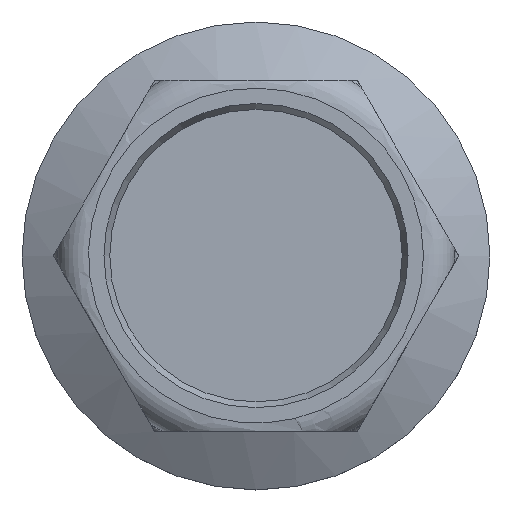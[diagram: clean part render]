
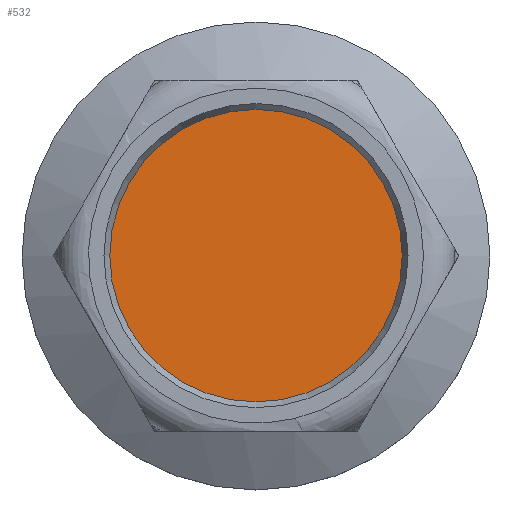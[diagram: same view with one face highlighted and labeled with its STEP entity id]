
A CAD part, top view. The second image highlights one B-rep face of the part: STEP entity #532.
In plain terms, the highlighted planar face has unit normal (0, 0, 1).
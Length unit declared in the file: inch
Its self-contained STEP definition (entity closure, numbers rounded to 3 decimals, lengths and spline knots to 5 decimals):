
#29=PLANE('',#582);
#83=FACE_OUTER_BOUND('',#121,.T.);
#121=EDGE_LOOP('',(#453));
#195=CIRCLE('',#583,0.39063);
#272=VERTEX_POINT('',#1240);
#344=EDGE_CURVE('',#272,#272,#195,.T.);
#453=ORIENTED_EDGE('',*,*,#344,.T.);
#532=ADVANCED_FACE('',(#83),#29,.F.);
#582=AXIS2_PLACEMENT_3D('',#1239,#689,#690);
#583=AXIS2_PLACEMENT_3D('',#1241,#691,#692);
#689=DIRECTION('center_axis',(0.,0.,-1.));
#690=DIRECTION('ref_axis',(-1.,0.,0.));
#691=DIRECTION('center_axis',(0.,0.,1.));
#692=DIRECTION('ref_axis',(1.,0.,0.));
#1239=CARTESIAN_POINT('Origin',(0.,-0.39063,-0.03125));
#1240=CARTESIAN_POINT('',(0.,-0.39063,-0.03125));
#1241=CARTESIAN_POINT('Origin',(0.,0.,-0.03125));
